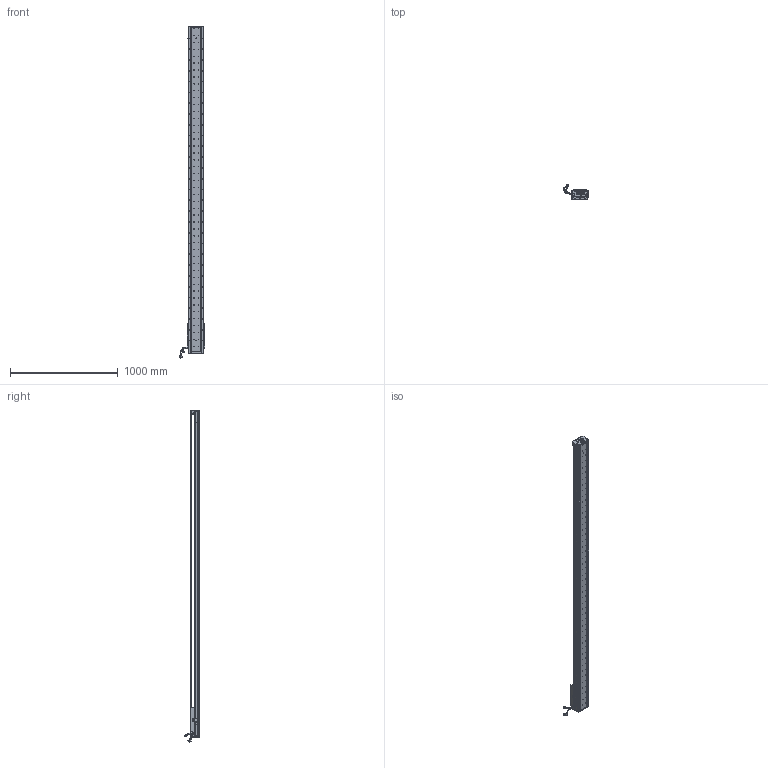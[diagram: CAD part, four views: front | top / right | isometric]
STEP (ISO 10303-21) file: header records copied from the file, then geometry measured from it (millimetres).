
FILE_DESCRIPTION (( 'STEP AP203' ), '1' );
FILE_NAME ('Z3-RY140D-1-L500-B-K.SLDASM_2700.step', '2021-05-17T08:06:12', ( '盈信电脑' ), ( '东莞市道滘镇水果街19号' ), 'SwSTEP 2.0', 'SolidWorks 2016', '' );
FILE_SCHEMA (( 'CONFIG_CONTROL_DESIGN' ));
Length unit declared in the file: millimetre
Products named in the file (36): HARNESS-Part-2; SEAL; PBU_SHEET; 140蚥薯蝶輸; 140-Z-臏賑輸盄裔(21遴); SHIELDPLATE; Z3-RY140D-1-L500-B-K.SLDASM_2700; HARNESS; COVER; Z3-RY140-L500詩湍100mm遵_2700; SCREW-M1.6-3; Z-RY140詩湍奻揤裔; LABEL-Part-1; SCALE-Part-1; 080黍杅芛假蚾釱21遴; 榋妏寠巭燃_暯_M2_2; SCREW-M1.6; Z-140詩湍傷裔啣; Z3-RY140-L500直线电机模组底座_2700; 140雄赽晤鎢ん堤盄; 覜茼ん672; Z-RY140詩湍狟揤裔; SCREW-M1.6-2; PSLH080_PSLF2; SCALE; Z-RY140感应器672光电感应片; HOLDER0; SCREW-M1.7-1; SEAL-Part-1; SCREW-M1.6-1; LABEL; Z3-RY140圉猾敕臏賑輸(21遴); SCALE-Part-2; HARNESS-Part-1; COVER-Part-1; SCREW-M1.7
Assembly tree (41 placements, depth 4):
  Z3-RY140D-1-L500-B-K.SLDASM_2700
    Z3-RY140-L500直线电机模组底座_2700
    Z-RY140感应器672光电感应片
    Z3-RY140圉猾敕臏賑輸(21遴)
    覜茼ん672  x3
    Z3-RY140-L500詩湍100mm遵_2700
    PSLH080_PSLF2
      SCALE
        SCALE-Part-1
        SCALE-Part-2
      HARNESS
        HARNESS-Part-1
        HARNESS-Part-2
      LABEL
        LABEL-Part-1
      COVER
        COVER-Part-1
      SEAL
        SEAL-Part-1
      榋妏寠巭燃_暯_M2_2
      SHIELDPLATE
      SCREW-M1.7
      SCREW-M1.7-1
      PBU_SHEET
      SCREW-M1.6
      SCREW-M1.6-1
      SCREW-M1.6-2
      SCREW-M1.6-3
      HOLDER0
    080黍杅芛假蚾釱21遴
    140-Z-臏賑輸盄裔(21遴)
    Z-140詩湍傷裔啣  x2
    Z-RY140詩湍狟揤裔  x2
    Z-RY140詩湍奻揤裔  x2
    140蚥薯蝶輸  x2
    140雄赽晤鎢ん堤盄
Bounding box: 239.79 x 143.88 x 3075.87 mm (x, y, z)
Volume: 9713228.4 mm3; surface area: 2531280.5 mm2
Topology: 36 solids, 36 shells, 4364 faces, 11920 edges, 7547 vertices
Faces by surface type: cylinder 2402, plane 1410, cone 430, torus 69, bspline 53
Entity records: 139820 total; most frequent: CARTESIAN_POINT 39939, ORIENTED_EDGE 20704, DIRECTION 19040, EDGE_CURVE 10352, AXIS2_PLACEMENT_3D 7096, VERTEX_POINT 6715, LINE 4848, VECTOR 4848
